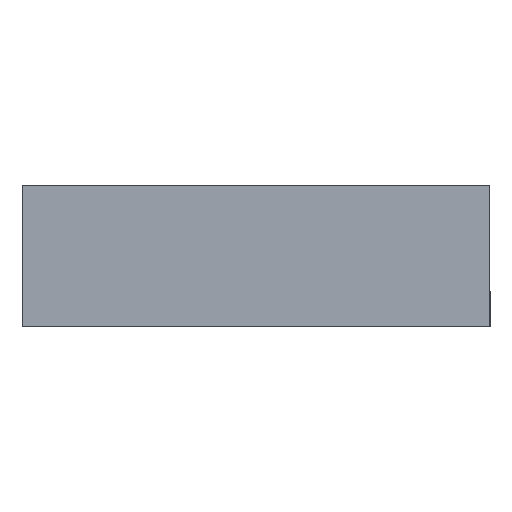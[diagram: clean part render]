
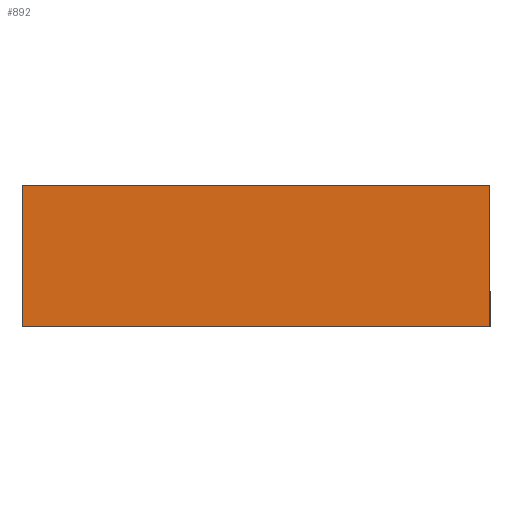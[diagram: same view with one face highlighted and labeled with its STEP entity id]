
A CAD part, left-side view. The second image highlights one B-rep face of the part: STEP entity #892.
In plain terms, the highlighted planar face has unit normal (-1, 0, 0).
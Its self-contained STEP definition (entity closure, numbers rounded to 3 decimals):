
#8 = CARTESIAN_POINT ( 'NONE',  ( 0., 0., 17.167 ) ) ;
#63 = LINE ( 'NONE', #175, #1144 ) ;
#168 = EDGE_CURVE ( 'NONE', #661, #704, #1285, .T. ) ;
#175 = CARTESIAN_POINT ( 'NONE',  ( 0., 30., 17.167 ) ) ;
#196 = DIRECTION ( 'NONE',  ( 0., 0., -1. ) ) ;
#204 = VECTOR ( 'NONE', #354, 1000. ) ;
#232 = VECTOR ( 'NONE', #196, 1000. ) ;
#302 = EDGE_CURVE ( 'NONE', #475, #804, #841, .T. ) ;
#310 = DIRECTION ( 'NONE',  ( -1., 0., 0. ) ) ;
#354 = DIRECTION ( 'NONE',  ( 0., 1., 0. ) ) ;
#435 = EDGE_LOOP ( 'NONE', ( #812, #690, #565, #1049 ) ) ;
#475 = VERTEX_POINT ( 'NONE', #879 ) ;
#513 = LINE ( 'NONE', #1121, #232 ) ;
#565 = ORIENTED_EDGE ( 'NONE', *, *, #786, .F. ) ;
#661 = VERTEX_POINT ( 'NONE', #1089 ) ;
#682 = CARTESIAN_POINT ( 'NONE',  ( 0., 0., 17.167 ) ) ;
#690 = ORIENTED_EDGE ( 'NONE', *, *, #302, .F. ) ;
#693 = DIRECTION ( 'NONE',  ( 0., 0., -1. ) ) ;
#704 = VERTEX_POINT ( 'NONE', #878 ) ;
#719 = DIRECTION ( 'NONE',  ( 0., 0., 1. ) ) ;
#786 = EDGE_CURVE ( 'NONE', #661, #475, #513, .T. ) ;
#804 = VERTEX_POINT ( 'NONE', #1321 ) ;
#812 = ORIENTED_EDGE ( 'NONE', *, *, #1132, .T. ) ;
#841 = LINE ( 'NONE', #1145, #204 ) ;
#878 = CARTESIAN_POINT ( 'NONE',  ( 0., 30., 17.167 ) ) ;
#879 = CARTESIAN_POINT ( 'NONE',  ( 0., -30., -1. ) ) ;
#892 = ADVANCED_FACE ( 'NONE', ( #1128 ), #1310, .T. ) ;
#1003 = AXIS2_PLACEMENT_3D ( 'NONE', #8, #310, #719 ) ;
#1004 = VECTOR ( 'NONE', #1309, 1000. ) ;
#1049 = ORIENTED_EDGE ( 'NONE', *, *, #168, .T. ) ;
#1089 = CARTESIAN_POINT ( 'NONE',  ( 0., -30., 17.167 ) ) ;
#1121 = CARTESIAN_POINT ( 'NONE',  ( 0., -30., 17.167 ) ) ;
#1128 = FACE_OUTER_BOUND ( 'NONE', #435, .T. ) ;
#1132 = EDGE_CURVE ( 'NONE', #704, #804, #63, .T. ) ;
#1144 = VECTOR ( 'NONE', #693, 1000. ) ;
#1145 = CARTESIAN_POINT ( 'NONE',  ( 0., 30., -1. ) ) ;
#1285 = LINE ( 'NONE', #682, #1004 ) ;
#1309 = DIRECTION ( 'NONE',  ( 0., 1., 0. ) ) ;
#1310 = PLANE ( 'NONE',  #1003 ) ;
#1321 = CARTESIAN_POINT ( 'NONE',  ( 0., 30., -1. ) ) ;
